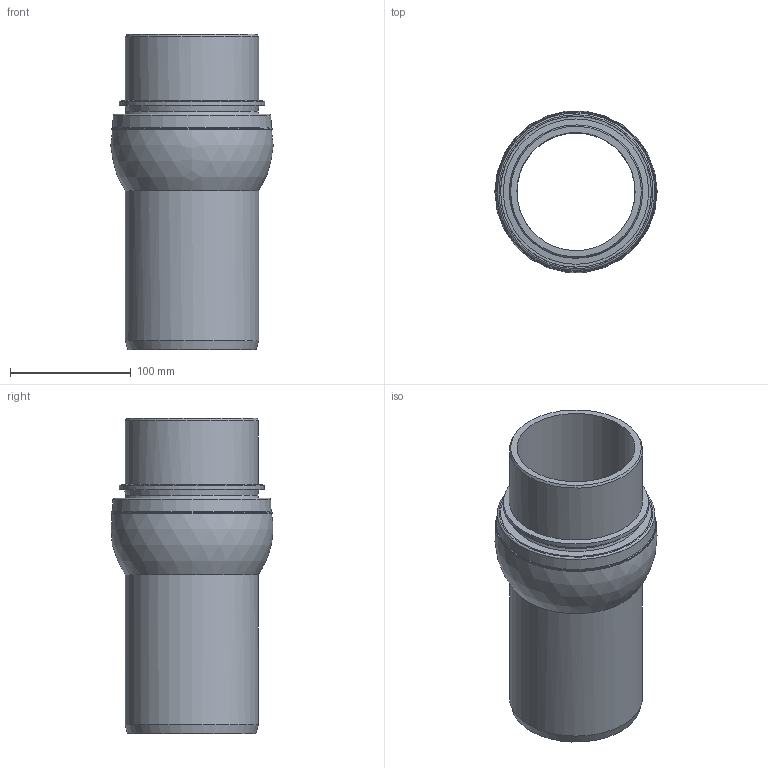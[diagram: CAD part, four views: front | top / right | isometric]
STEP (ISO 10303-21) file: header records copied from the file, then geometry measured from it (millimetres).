
FILE_DESCRIPTION(/* description */ (''),/* implementation_level */ '2;1');
FILE_NAME(/* name */ 'C:\Planerdaten\Export PLA\310.048.14.1\stp\310048.stp',/* time_stamp */ '2021-09-21T10:28:32+02:00',/* author */ ('JANAN'),/* organization */ (''),/* preprocessor_version */ 'ST-DEVELOPER v16.13',/* originating_system */ 'Autodesk Inventor 2018',/* authorisation */ '');
FILE_SCHEMA (('AUTOMOTIVE_DESIGN { 1 0 10303 214 3 1 1 }'));
Length unit declared in the file: millimetre
Products named in the file (1): tmp56F6.tmp
Bounding box: 134.49 x 133.93 x 261 mm (x, y, z)
Volume: 753669.8 mm3; surface area: 239607.3 mm2
Topology: 3 solids, 3 shells, 29 faces, 56 edges, 35 vertices
Faces by surface type: plane 8, cylinder 7, cone 7, torus 4, sphere 3
Full cylindrical faces by diameter (mm): 97.9 x2, 110.4 x2, 120.4 x1, 125 x1, 133.2 x1
Entity records: 669 total; most frequent: DIRECTION 118, CARTESIAN_POINT 88, AXIS2_PLACEMENT_3D 59, EDGE_LOOP 58, ORIENTED_EDGE 58, STYLED_ITEM 32, FACE_BOUND 29, FACE_OUTER_BOUND 29
